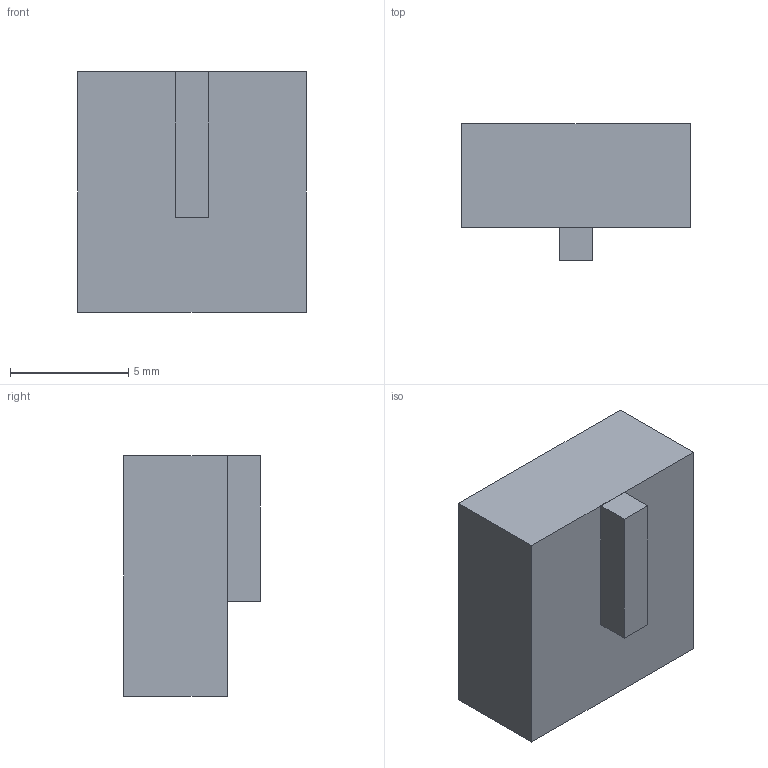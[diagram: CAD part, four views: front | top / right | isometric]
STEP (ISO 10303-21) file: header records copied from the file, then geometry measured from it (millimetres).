
FILE_DESCRIPTION(('Molex_Micro-Fit_3.0_43650-0215 placeholder'),'2;1');
FILE_NAME('Molex_Micro-Fit_3.0_43650-0215','2026-10-05T01:44:14',(''),(''),'step_boxes.py','','');
FILE_SCHEMA(('AUTOMOTIVE_DESIGN { 1 0 10303 214 1 1 1 1 }'));
Length unit declared in the file: millimetre
Products named in the file (1): Molex_Micro-Fit_3.0_43650-0215
Bounding box: 9.65 x 5.77 x 10.15 mm (x, y, z)
Volume: 440.1 mm3; surface area: 407.3 mm2
Topology: 2 solids, 2 shells, 12 faces, 24 edges, 16 vertices
Faces by surface type: plane 12
Entity records: 316 total; most frequent: CARTESIAN_POINT 53, DIRECTION 50, ORIENTED_EDGE 48, VECTOR 24, LINE 24, EDGE_CURVE 24, VERTEX_POINT 16, AXIS2_PLACEMENT_3D 13
